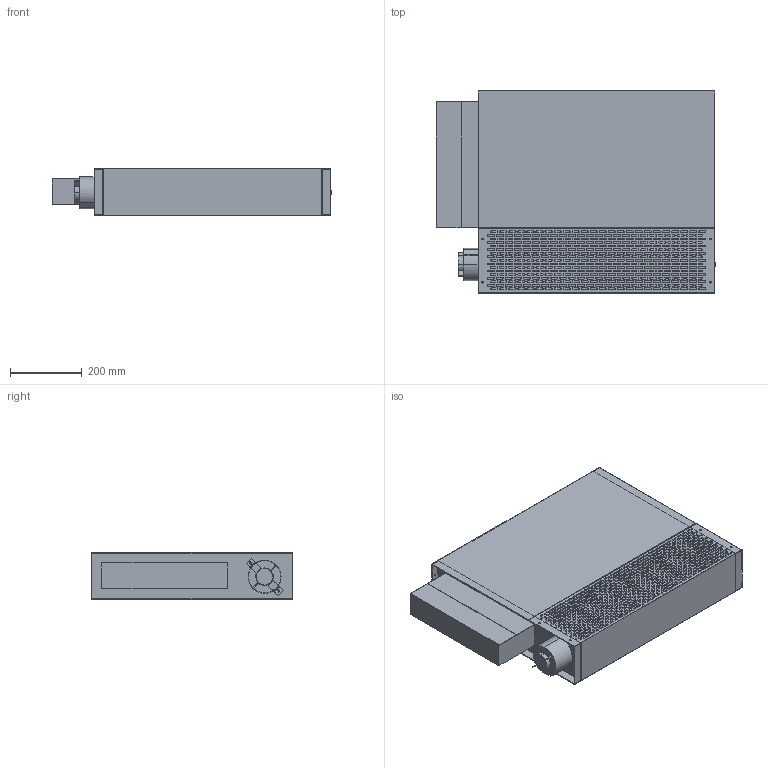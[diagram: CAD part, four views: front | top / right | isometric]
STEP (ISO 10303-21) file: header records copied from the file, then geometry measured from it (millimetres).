
FILE_DESCRIPTION (( 'STEP AP214' ), '1' );
FILE_NAME ('PFWSLA-02.STEP', '2024-09-28T15:37:42', ( '' ), ( '' ), 'SwSTEP 2.0', 'SolidWorks 2023', '' );
FILE_SCHEMA (( 'AUTOMOTIVE_DESIGN' ));
Length unit declared in the file: inch
Products named in the file (1): PFWSLA-02
Bounding box: 777.19 x 561.98 x 130.18 mm (x, y, z)
Volume: 14255787.1 mm3; surface area: 3203054 mm2
Topology: 18 solids, 18 shells, 3297 faces, 9207 edges, 6122 vertices
Faces by surface type: plane 1920, cylinder 1377
Entity records: 108249 total; most frequent: CARTESIAN_POINT 18627, DIRECTION 18561, ORIENTED_EDGE 18414, EDGE_CURVE 9207, VECTOR 6449, LINE 6449, VERTEX_POINT 6122, AXIS2_PLACEMENT_3D 6056
